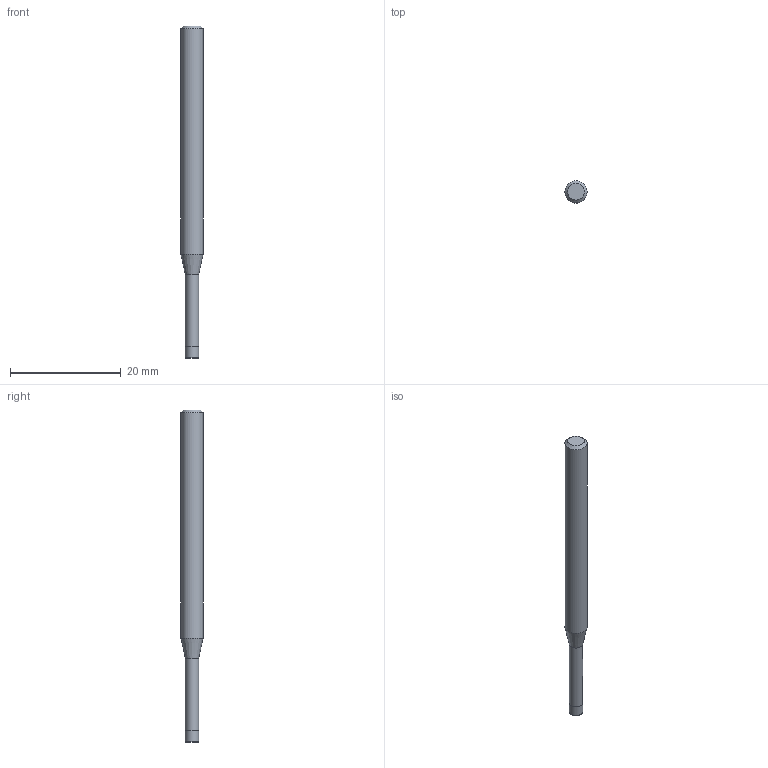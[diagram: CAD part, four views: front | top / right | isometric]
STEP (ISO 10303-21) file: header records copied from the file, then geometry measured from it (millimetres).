
FILE_DESCRIPTION((''),'2;1');
FILE_NAME('C:\Users\nsx150\AppData\Local\Temp\Mastercam 2021\CSMVKW3037\TEMP.step','2023-06-23T16:03:42',(''),(''),'STEP Write','Mastercam 2021 ... CNC Software, Inc.','');
FILE_SCHEMA(('AUTOMOTIVE_DESIGN'));
Length unit declared in the file: millimetre
Products named in the file (1): None
Bounding box: 4 x 4 x 60 mm (x, y, z)
Volume: 615.6 mm3; surface area: 692.6 mm2
Topology: 2 solids, 2 shells, 10 faces, 14 edges, 8 vertices
Faces by surface type: plane 4, cylinder 3, cone 2, torus 1
Full cylindrical faces by diameter (mm): 2.39 x1, 2.5 x1, 4 x1
Entity records: 232 total; most frequent: DIRECTION 40, CARTESIAN_POINT 28, AXIS2_PLACEMENT_3D 20, ORIENTED_EDGE 16, EDGE_LOOP 16, STYLED_ITEM 13, ADVANCED_FACE 10, FACE_BOUND 10
